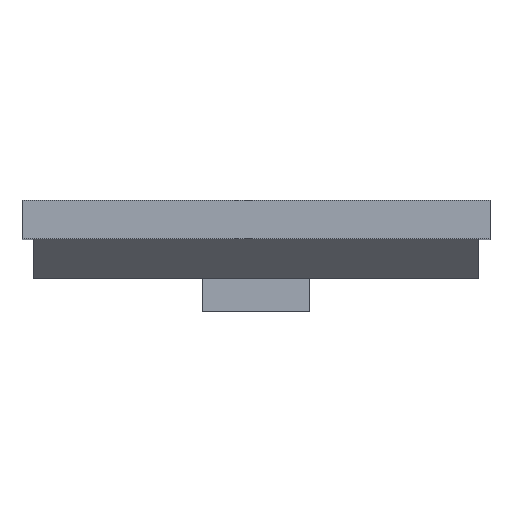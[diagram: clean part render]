
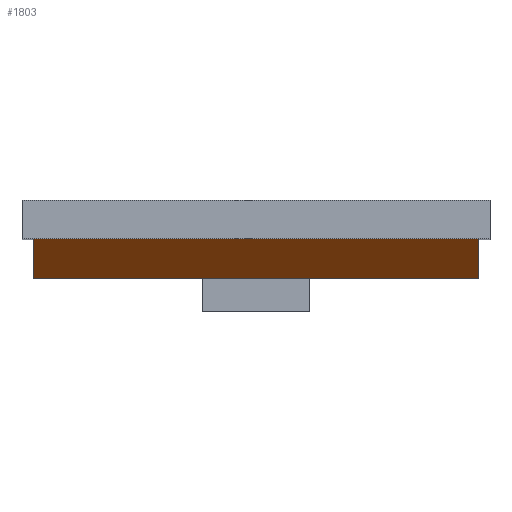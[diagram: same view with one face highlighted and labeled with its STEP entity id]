
A CAD part, top view. The second image highlights one B-rep face of the part: STEP entity #1803.
In plain terms, the highlighted planar face has unit normal (0, -0.707, 0.707).
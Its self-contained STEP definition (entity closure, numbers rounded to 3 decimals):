
#97=FACE_OUTER_BOUND('',#179,.T.);
#179=EDGE_LOOP('',(#1426,#1427,#1428,#1429,#1430,#1431,#1432,#1433,#1434,
#1435));
#377=LINE('',#2702,#626);
#383=LINE('',#2714,#632);
#385=LINE('',#2719,#634);
#397=LINE('',#2739,#646);
#398=LINE('',#2741,#647);
#399=LINE('',#2744,#648);
#400=LINE('',#2745,#649);
#401=LINE('',#2746,#650);
#402=LINE('',#2748,#651);
#403=LINE('',#2749,#652);
#626=VECTOR('',#2194,10.);
#632=VECTOR('',#2202,10.);
#634=VECTOR('',#2206,10.);
#646=VECTOR('',#2222,10.);
#647=VECTOR('',#2225,10.);
#648=VECTOR('',#2228,10.);
#649=VECTOR('',#2229,10.);
#650=VECTOR('',#2230,10.);
#651=VECTOR('',#2231,10.);
#652=VECTOR('',#2232,10.);
#811=VERTEX_POINT('',#2657);
#824=VERTEX_POINT('',#2698);
#826=VERTEX_POINT('',#2701);
#829=VERTEX_POINT('',#2708);
#831=VERTEX_POINT('',#2712);
#832=VERTEX_POINT('',#2716);
#838=VERTEX_POINT('',#2735);
#839=VERTEX_POINT('',#2737);
#840=VERTEX_POINT('',#2743);
#841=VERTEX_POINT('',#2747);
#1039=EDGE_CURVE('',#826,#824,#377,.T.);
#1045=EDGE_CURVE('',#829,#831,#383,.T.);
#1047=EDGE_CURVE('',#811,#832,#385,.T.);
#1059=EDGE_CURVE('',#838,#839,#397,.T.);
#1060=EDGE_CURVE('',#839,#826,#398,.T.);
#1061=EDGE_CURVE('',#840,#824,#399,.T.);
#1062=EDGE_CURVE('',#829,#840,#400,.T.);
#1063=EDGE_CURVE('',#811,#831,#401,.T.);
#1064=EDGE_CURVE('',#841,#832,#402,.T.);
#1065=EDGE_CURVE('',#838,#841,#403,.T.);
#1426=ORIENTED_EDGE('',*,*,#1060,.T.);
#1427=ORIENTED_EDGE('',*,*,#1039,.T.);
#1428=ORIENTED_EDGE('',*,*,#1061,.F.);
#1429=ORIENTED_EDGE('',*,*,#1062,.F.);
#1430=ORIENTED_EDGE('',*,*,#1045,.T.);
#1431=ORIENTED_EDGE('',*,*,#1063,.F.);
#1432=ORIENTED_EDGE('',*,*,#1047,.T.);
#1433=ORIENTED_EDGE('',*,*,#1064,.F.);
#1434=ORIENTED_EDGE('',*,*,#1065,.F.);
#1435=ORIENTED_EDGE('',*,*,#1059,.T.);
#1729=PLANE('',#1905);
#1803=ADVANCED_FACE('',(#97),#1729,.F.);
#1905=AXIS2_PLACEMENT_3D('',#2742,#2226,#2227);
#2194=DIRECTION('',(0.,0.707,0.707));
#2202=DIRECTION('',(-1.,0.,0.));
#2206=DIRECTION('',(-1.,0.,0.));
#2222=DIRECTION('',(0.,-0.707,-0.707));
#2225=DIRECTION('',(1.,0.,0.));
#2226=DIRECTION('center_axis',(0.,0.707,-0.707));
#2227=DIRECTION('ref_axis',(-1.,0.,0.));
#2228=DIRECTION('',(0.,-0.707,-0.707));
#2229=DIRECTION('',(1.,0.,0.));
#2230=DIRECTION('',(1.,0.,0.));
#2231=DIRECTION('',(1.,0.,0.));
#2232=DIRECTION('',(0.,0.707,0.707));
#2657=CARTESIAN_POINT('',(-5.667,0.,162.));
#2698=CARTESIAN_POINT('',(162.,-14.,148.));
#2701=CARTESIAN_POINT('',(162.,-42.426,119.574));
#2702=CARTESIAN_POINT('',(162.,-42.426,119.574));
#2708=CARTESIAN_POINT('',(140.5,0.,162.));
#2712=CARTESIAN_POINT('',(5.667,0.,162.));
#2714=CARTESIAN_POINT('',(-162.,0.,162.));
#2716=CARTESIAN_POINT('',(-140.5,0.,162.));
#2719=CARTESIAN_POINT('',(-162.,0.,162.));
#2735=CARTESIAN_POINT('',(-162.,-14.,148.));
#2737=CARTESIAN_POINT('',(-162.,-42.426,119.574));
#2739=CARTESIAN_POINT('',(-162.,0.,162.));
#2741=CARTESIAN_POINT('',(-162.,-42.426,119.574));
#2742=CARTESIAN_POINT('Origin',(0.,-21.213,140.787));
#2743=CARTESIAN_POINT('',(162.,0.,162.));
#2744=CARTESIAN_POINT('',(162.,-14.107,147.893));
#2745=CARTESIAN_POINT('',(-81.,0.,162.));
#2746=CARTESIAN_POINT('',(-83.833,0.,162.));
#2747=CARTESIAN_POINT('',(-162.,0.,162.));
#2748=CARTESIAN_POINT('',(-81.,0.,162.));
#2749=CARTESIAN_POINT('',(-162.,-95.107,66.893));
